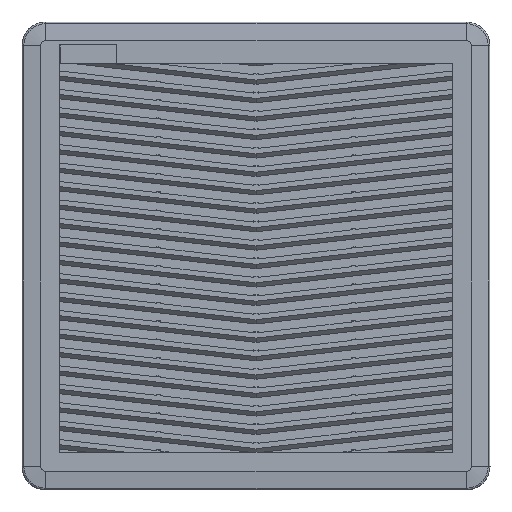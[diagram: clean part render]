
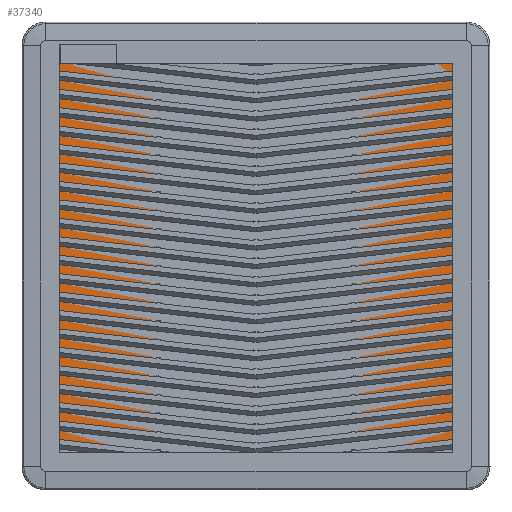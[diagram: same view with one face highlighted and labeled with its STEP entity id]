
A CAD part, top view. The second image highlights one B-rep face of the part: STEP entity #37340.
In plain terms, the highlighted planar face has unit normal (0, 0, 1).
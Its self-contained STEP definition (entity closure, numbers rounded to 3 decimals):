
#528 = EDGE_CURVE ( 'NONE', #4165, #36629, #25316, .T. ) ;
#666 = DIRECTION ( 'NONE',  ( 1., 0., 0. ) ) ;
#884 = DIRECTION ( 'NONE',  ( 0., 0., -1. ) ) ;
#975 = CIRCLE ( 'NONE', #25950, 10.5 ) ;
#982 = CARTESIAN_POINT ( 'NONE',  ( 112.04, -122.54, 6.009 ) ) ;
#1189 = CARTESIAN_POINT ( 'NONE',  ( 112.04, 124.96, 6.009 ) ) ;
#1252 = CARTESIAN_POINT ( 'NONE',  ( 122.54, -112.04, 6.009 ) ) ;
#2400 = ORIENTED_EDGE ( 'NONE', *, *, #34109, .F. ) ;
#2813 = EDGE_CURVE ( 'NONE', #23358, #32506, #35311, .T. ) ;
#3661 = FACE_OUTER_BOUND ( 'NONE', #31138, .T. ) ;
#4165 = VERTEX_POINT ( 'NONE', #5819 ) ;
#4569 = AXIS2_PLACEMENT_3D ( 'NONE', #30007, #14791, #666 ) ;
#5819 = CARTESIAN_POINT ( 'NONE',  ( -122.46, -112.04, 6.009 ) ) ;
#5956 = AXIS2_PLACEMENT_3D ( 'NONE', #16128, #20112, #29320 ) ;
#6227 = EDGE_CURVE ( 'NONE', #20237, #23358, #975, .T. ) ;
#6991 = DIRECTION ( 'NONE',  ( -1., 0., 0. ) ) ;
#7049 = EDGE_CURVE ( 'NONE', #32506, #24140, #34934, .T. ) ;
#7226 = VERTEX_POINT ( 'NONE', #15920 ) ;
#8801 = ORIENTED_EDGE ( 'NONE', *, *, #528, .F. ) ;
#9680 = DIRECTION ( 'NONE',  ( 0., 1., 0. ) ) ;
#10704 = ORIENTED_EDGE ( 'NONE', *, *, #2813, .F. ) ;
#12097 = ORIENTED_EDGE ( 'NONE', *, *, #7049, .F. ) ;
#12348 = LINE ( 'NONE', #12540, #33506 ) ;
#12540 = CARTESIAN_POINT ( 'NONE',  ( -111.96, 124.96, 6.009 ) ) ;
#12573 = ORIENTED_EDGE ( 'NONE', *, *, #30543, .F. ) ;
#13121 = CIRCLE ( 'NONE', #15698, 10.5 ) ;
#14325 = DIRECTION ( 'NONE',  ( 0., 0., -1. ) ) ;
#14618 = CARTESIAN_POINT ( 'NONE',  ( 122.54, -112.04, 6.009 ) ) ;
#14791 = DIRECTION ( 'NONE',  ( 0., 0., 1. ) ) ;
#15698 = AXIS2_PLACEMENT_3D ( 'NONE', #24746, #884, #18736 ) ;
#15920 = CARTESIAN_POINT ( 'NONE',  ( -111.96, 124.96, 6.009 ) ) ;
#16128 = CARTESIAN_POINT ( 'NONE',  ( -111.96, 114.46, 6.009 ) ) ;
#17656 = VECTOR ( 'NONE', #9680, 1000. ) ;
#18234 = DIRECTION ( 'NONE',  ( 0., 0., -1. ) ) ;
#18724 = PLANE ( 'NONE',  #4569 ) ;
#18736 = DIRECTION ( 'NONE',  ( 1., 0., 0. ) ) ;
#19583 = AXIS2_PLACEMENT_3D ( 'NONE', #20732, #14325, #30134 ) ;
#20112 = DIRECTION ( 'NONE',  ( 0., 0., -1. ) ) ;
#20237 = VERTEX_POINT ( 'NONE', #1189 ) ;
#20732 = CARTESIAN_POINT ( 'NONE',  ( 112.04, -112.04, 6.009 ) ) ;
#21170 = ORIENTED_EDGE ( 'NONE', *, *, #33706, .F. ) ;
#21888 = CARTESIAN_POINT ( 'NONE',  ( -111.96, -122.54, 6.009 ) ) ;
#23030 = VERTEX_POINT ( 'NONE', #21888 ) ;
#23274 = CIRCLE ( 'NONE', #5956, 10.5 ) ;
#23358 = VERTEX_POINT ( 'NONE', #38196 ) ;
#23487 = VECTOR ( 'NONE', #31532, 1000. ) ;
#24140 = VERTEX_POINT ( 'NONE', #31908 ) ;
#24233 = DIRECTION ( 'NONE',  ( 1., 0., 0. ) ) ;
#24746 = CARTESIAN_POINT ( 'NONE',  ( -111.96, -112.04, 6.009 ) ) ;
#24777 = DIRECTION ( 'NONE',  ( 1., 0., 0. ) ) ;
#25316 = LINE ( 'NONE', #28130, #17656 ) ;
#25950 = AXIS2_PLACEMENT_3D ( 'NONE', #27434, #18234, #24233 ) ;
#27434 = CARTESIAN_POINT ( 'NONE',  ( 112.04, 114.46, 6.009 ) ) ;
#28130 = CARTESIAN_POINT ( 'NONE',  ( -122.46, -112.04, 6.009 ) ) ;
#29320 = DIRECTION ( 'NONE',  ( 1., 0., 0. ) ) ;
#29752 = ORIENTED_EDGE ( 'NONE', *, *, #6227, .F. ) ;
#30007 = CARTESIAN_POINT ( 'NONE',  ( 0.04, -0.04, 6.009 ) ) ;
#30134 = DIRECTION ( 'NONE',  ( 1., 0., 0. ) ) ;
#30543 = EDGE_CURVE ( 'NONE', #23030, #4165, #13121, .T. ) ;
#30850 = VECTOR ( 'NONE', #6991, 1000. ) ;
#31138 = EDGE_LOOP ( 'NONE', ( #2400, #8801, #12573, #35862, #12097, #10704, #29752, #21170 ) ) ;
#31441 = LINE ( 'NONE', #982, #30850 ) ;
#31532 = DIRECTION ( 'NONE',  ( 0., -1., 0. ) ) ;
#31908 = CARTESIAN_POINT ( 'NONE',  ( 112.04, -122.54, 6.009 ) ) ;
#32198 = CARTESIAN_POINT ( 'NONE',  ( -122.46, 114.46, 6.009 ) ) ;
#32506 = VERTEX_POINT ( 'NONE', #14618 ) ;
#33506 = VECTOR ( 'NONE', #24777, 1000. ) ;
#33706 = EDGE_CURVE ( 'NONE', #7226, #20237, #12348, .T. ) ;
#34109 = EDGE_CURVE ( 'NONE', #36629, #7226, #23274, .T. ) ;
#34934 = CIRCLE ( 'NONE', #19583, 10.5 ) ;
#35311 = LINE ( 'NONE', #1252, #23487 ) ;
#35862 = ORIENTED_EDGE ( 'NONE', *, *, #38166, .F. ) ;
#36629 = VERTEX_POINT ( 'NONE', #32198 ) ;
#37340 = ADVANCED_FACE ( 'NONE', ( #3661 ), #18724, .T. ) ;
#38166 = EDGE_CURVE ( 'NONE', #24140, #23030, #31441, .T. ) ;
#38196 = CARTESIAN_POINT ( 'NONE',  ( 122.54, 114.46, 6.009 ) ) ;
